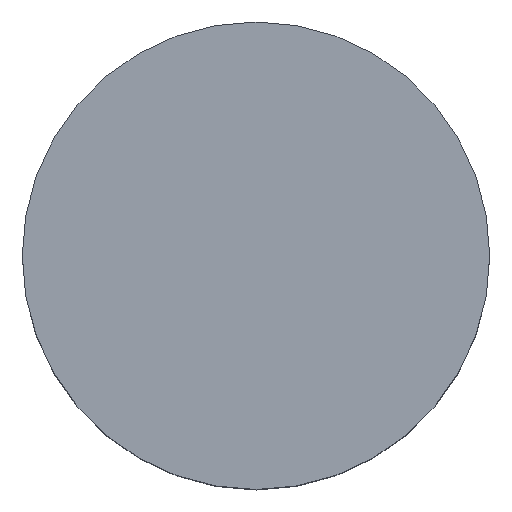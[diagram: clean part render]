
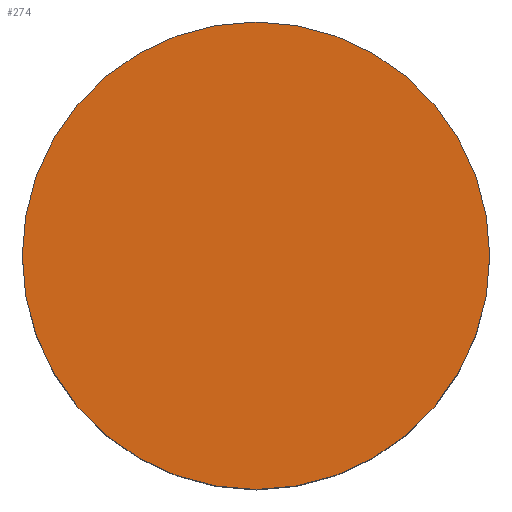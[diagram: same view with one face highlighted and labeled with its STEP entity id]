
A CAD part, top view. The second image highlights one B-rep face of the part: STEP entity #274.
In plain terms, the highlighted planar face has unit normal (0, 0, 1).
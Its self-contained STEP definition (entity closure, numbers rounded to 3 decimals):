
#40=PLANE('',#328);
#81=FACE_OUTER_BOUND('',#112,.T.);
#112=EDGE_LOOP('',(#238));
#145=CIRCLE('',#327,25.75);
#168=VERTEX_POINT('',#498);
#195=EDGE_CURVE('',#168,#168,#145,.T.);
#238=ORIENTED_EDGE('',*,*,#195,.T.);
#274=ADVANCED_FACE('',(#81),#40,.T.);
#327=AXIS2_PLACEMENT_3D('',#499,#422,#423);
#328=AXIS2_PLACEMENT_3D('',#500,#424,#425);
#422=DIRECTION('center_axis',(0.,0.,1.));
#423=DIRECTION('ref_axis',(-1.,0.,0.));
#424=DIRECTION('center_axis',(0.,0.,1.));
#425=DIRECTION('ref_axis',(1.,0.,0.));
#498=CARTESIAN_POINT('',(25.75,0.,33.));
#499=CARTESIAN_POINT('Origin',(0.,0.,33.));
#500=CARTESIAN_POINT('Origin',(0.,0.,
33.));
